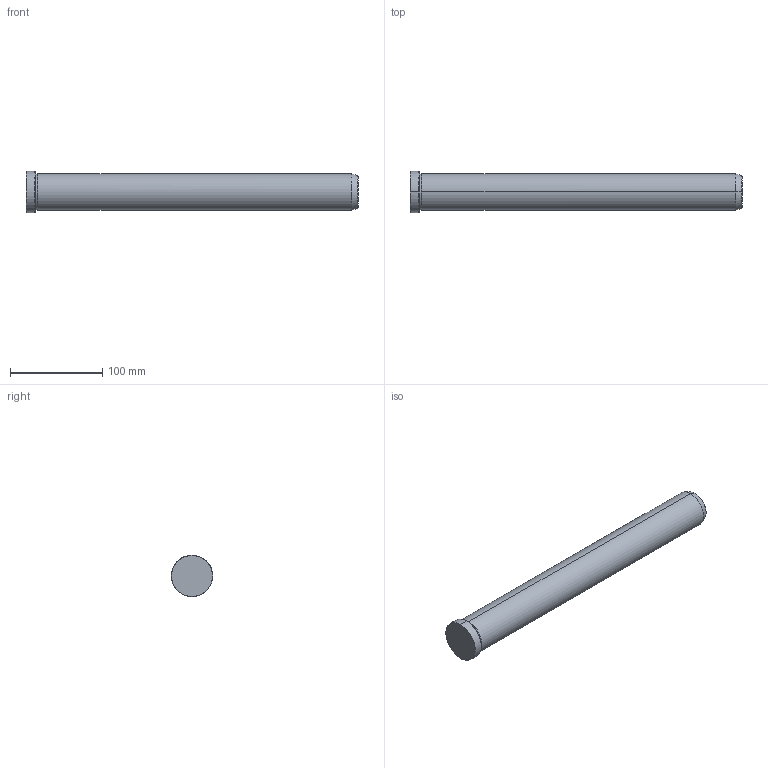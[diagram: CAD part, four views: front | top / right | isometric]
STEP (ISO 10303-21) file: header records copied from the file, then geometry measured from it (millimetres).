
FILE_DESCRIPTION(('CATIA V5 STEP Exchange'),'2;1');
FILE_NAME('C:\Users\Utente\Desktop\IO LAVORO\3D X SITO CF\X SITO\PLASTICA\549\549-40X360.stp','2021-12-18T08:11:37+00:00',('none'),('none'),'CATIA Version 5 Release 20 GA (IN-10)','CATIA V5 STEP AP203','none');
FILE_SCHEMA(('CONFIG_CONTROL_DESIGN'));
Length unit declared in the file: millimetre
Products named in the file (1): 549-40X360
Bounding box: 360 x 45 x 45 mm (x, y, z)
Volume: 454369.6 mm3; surface area: 48252 mm2
Topology: 1 solids, 1 shells, 19 faces, 56 edges, 40 vertices
Faces by surface type: cone 8, cylinder 6, plane 3, torus 2
Entity records: 736 total; most frequent: CARTESIAN_POINT 192, ORIENTED_EDGE 112, DIRECTION 86, EDGE_CURVE 56, AXIS2_PLACEMENT_3D 54, VERTEX_POINT 40, CIRCLE 34, EDGE_LOOP 20
